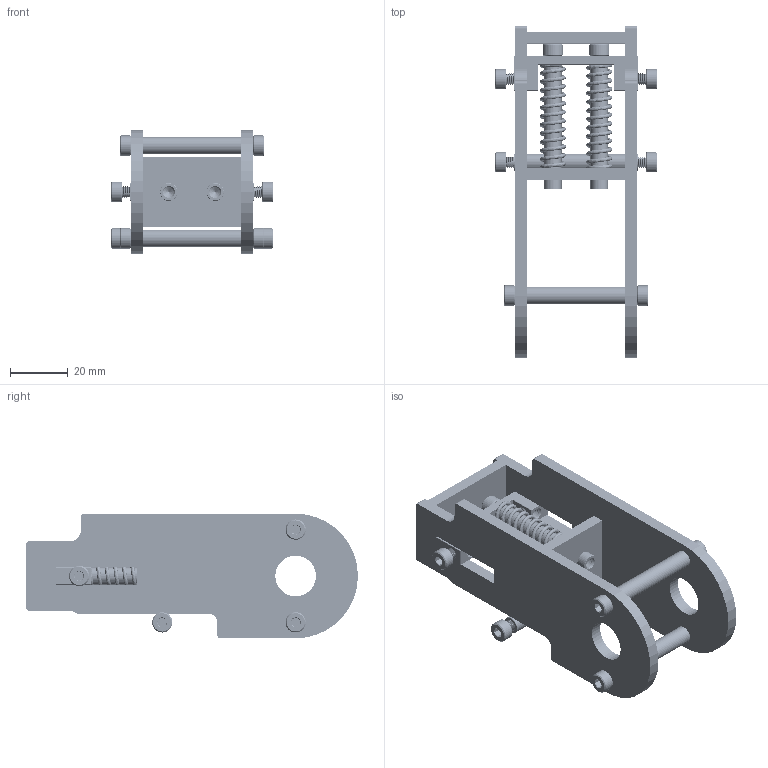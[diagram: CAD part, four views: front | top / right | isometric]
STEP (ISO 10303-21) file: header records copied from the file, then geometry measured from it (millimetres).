
FILE_DESCRIPTION (( 'STEP AP203' ), '1' );
FILE_NAME ('2406-0001-0003 Assembly.STEP', '2023-03-06T17:04:29', ( '' ), ( '' ), 'SwSTEP 2.0', 'SolidWorks 2016', '' );
FILE_SCHEMA (( 'CONFIG_CONTROL_DESIGN' ));
Length unit declared in the file: millimetre
Products named in the file (9): 1131-0004-0013; 1131-0004-0011; 2406-0001-0003 Assembly; 2800-0004-0011_90128A207; 1131-0004-0012; 1205-0001-0003; 1501-0006-0340; 1501-0006-0430; 2916-0001-0003 COMPRESSED to 35.7mm
Assembly tree (22 placements, depth 2):
  2406-0001-0003 Assembly
    1131-0004-0013
    1131-0004-0012
    1131-0004-0011  x2
    1205-0001-0003
    1501-0006-0430  x3
    2800-0004-0011_90128A207  x10
    1501-0006-0340  x2
    2916-0001-0003 COMPRESSED to 35.7mm  x2
Bounding box: 56 x 114.5 x 43 mm (x, y, z)
Volume: 44053.9 mm3; surface area: 37237.1 mm2
Topology: 22 solids, 22 shells, 2337 faces, 6550 edges, 4261 vertices
Faces by surface type: cylinder 1639, plane 244, cone 231, bspline 223
Entity records: 259980 total; most frequent: CARTESIAN_POINT 237234, ORIENTED_EDGE 5934, EDGE_CURVE 2967, DIRECTION 2862, VERTEX_POINT 1946, EDGE_LOOP 1073, AXIS2_PLACEMENT_3D 1045, ADVANCED_FACE 1037
